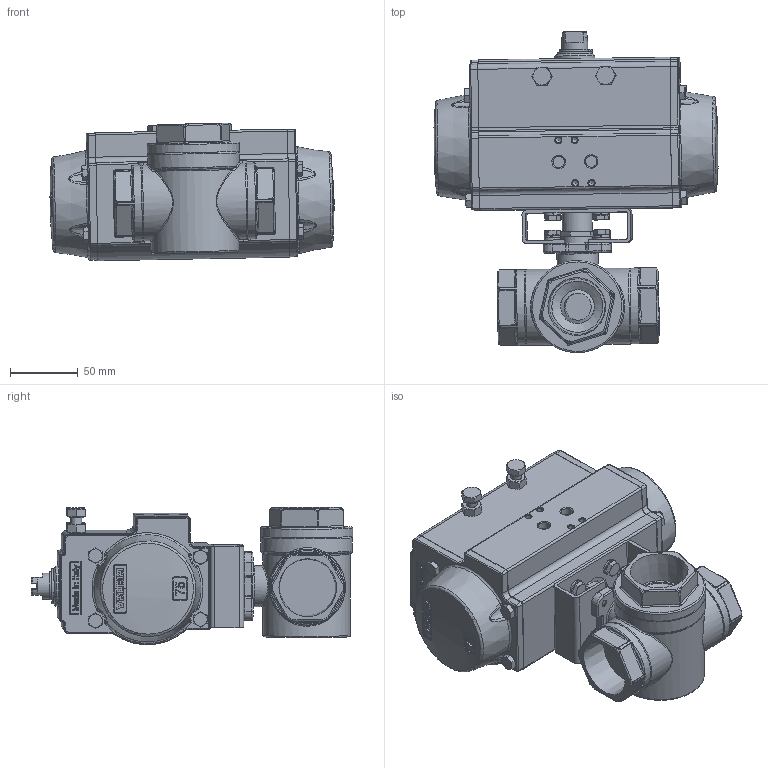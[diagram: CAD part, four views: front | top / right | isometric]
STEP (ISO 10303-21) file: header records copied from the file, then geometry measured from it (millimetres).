
FILE_DESCRIPTION((''),'2;1');
FILE_NAME('M:\3D-Files nach Lieferanten\TA-Produkte\angetriebene Armaturen\Register 8\PV3\PV3 032 L1 DA075.stp','2021-12-02T11:12:07',('RL'),(''),'Autodesk Inventor 2012','Autodesk Inventor 2012','');
FILE_SCHEMA(('AUTOMOTIVE_DESIGN { 1 0 10303 214 1 1 1 1 }'));
Length unit declared in the file: millimetre
Products named in the file (1): PV3 032 L1 DA075
Bounding box: 209.42 x 237.06 x 101.46 mm (x, y, z)
Volume: 1892835.8 mm3; surface area: 206514.7 mm2
Topology: 1 solids, 9 shells, 2243 faces, 5618 edges, 3436 vertices
Faces by surface type: plane 848, bspline 474, cylinder 400, cone 277, torus 151, sphere 93
Full cylindrical faces by diameter (mm): 2 x3, 4.2 x8, 5 x6, 6 x8, 6.3 x1, 6.4 x4, 6.5 x4, 6.8 x4, 8 x2, 8.5 x2, 8.88 x8, 10 x8, 12 x4, 13 x2, 15 x1, 15.1 x1, 15.2 x1, 15.5 x1, 19 x2, 19.5 x2, 20 x2, 20.637 x1, 22 x1, 22.225 x1, 24.3 x1, 25 x6, 26 x1, 29.3 x1, 30.4 x1, 31 x1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
Entity records: 97489 total; most frequent: CARTESIAN_POINT 46011, ORIENTED_EDGE 10542, DIRECTION 9710, EDGE_CURVE 5271, AXIS2_PLACEMENT_3D 3873, VERTEX_POINT 3334, EDGE_LOOP 2613, STYLED_ITEM 2243
